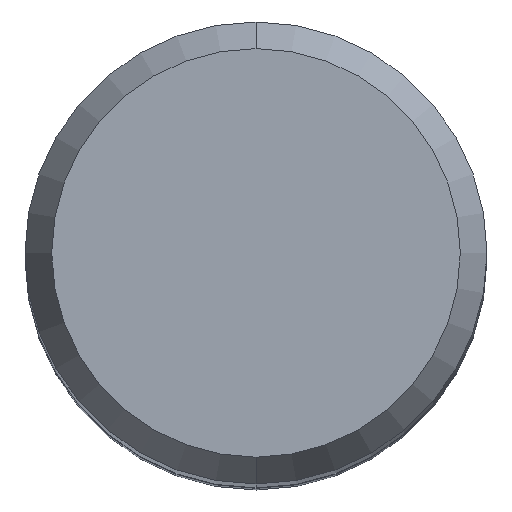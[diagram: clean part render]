
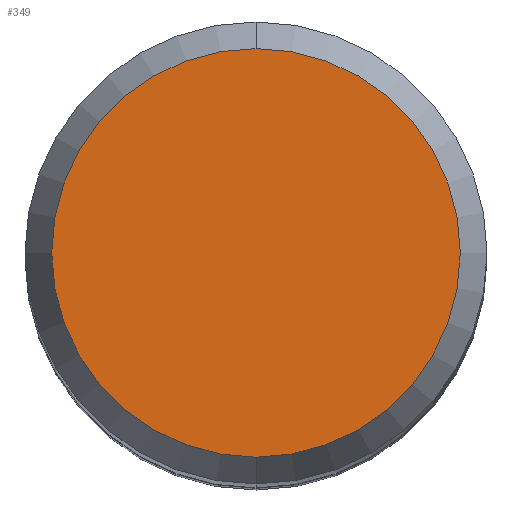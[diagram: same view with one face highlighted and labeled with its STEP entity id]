
A CAD part, top view. The second image highlights one B-rep face of the part: STEP entity #349.
In plain terms, the highlighted planar face has unit normal (0, 0, 1).
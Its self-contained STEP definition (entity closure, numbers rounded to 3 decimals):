
#191=EDGE_CURVE('',#321,#301,#507,.T.);
#239=EDGE_CURVE('',#301,#321,#557,.T.);
#301=VERTEX_POINT('',#625);
#321=VERTEX_POINT('',#647);
#349=ADVANCED_FACE('',(#679),#680,.T.);
#507=CIRCLE('',#853,3.538);
#557=CIRCLE('',#956,3.538);
#625=CARTESIAN_POINT('',(0.,-3.538,0.0));
#647=CARTESIAN_POINT('',(0.0,3.538,0.0));
#679=FACE_OUTER_BOUND('',#1221,.T.);
#680=PLANE('',#1222);
#853=AXIS2_PLACEMENT_3D('',#1501,#1502,#1503);
#956=AXIS2_PLACEMENT_3D('',#1541,#1542,#1543);
#1221=EDGE_LOOP('',(#1689,#1690));
#1222=AXIS2_PLACEMENT_3D('',#1691,#1692,#1693);
#1501=CARTESIAN_POINT('',(0.0,0.0,0.0));
#1502=DIRECTION('',(0.0,0.0,-1.0));
#1503=DIRECTION('',(0.0,1.0,0.0));
#1541=CARTESIAN_POINT('',(0.0,0.0,0.0));
#1542=DIRECTION('',(0.0,0.0,-1.0));
#1543=DIRECTION('',(0.0,1.0,0.0));
#1689=ORIENTED_EDGE('',*,*,#191,.F.);
#1690=ORIENTED_EDGE('',*,*,#239,.F.);
#1691=CARTESIAN_POINT('',(0.0,1.769,0.0));
#1692=DIRECTION('',(-0.0,0.0,1.0));
#1693=DIRECTION('',(0.0,-1.0,0.0));
